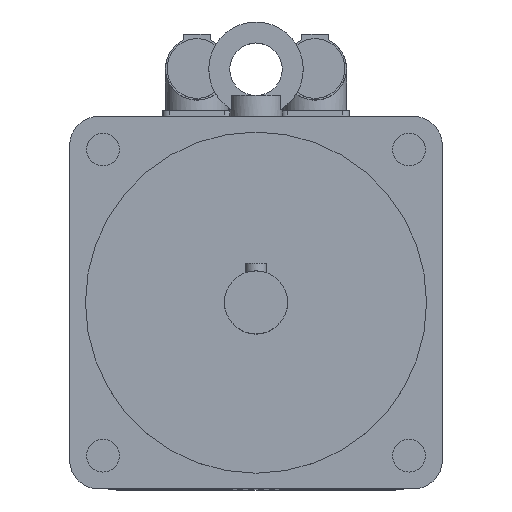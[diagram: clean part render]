
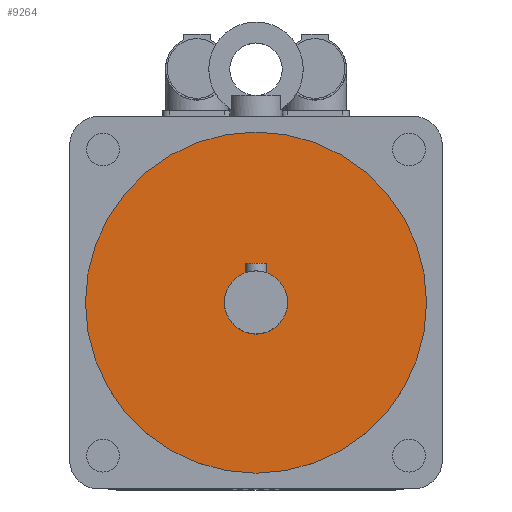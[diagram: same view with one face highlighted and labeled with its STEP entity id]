
A CAD part, top view. The second image highlights one B-rep face of the part: STEP entity #9264.
In plain terms, the highlighted planar face has unit normal (0, 0, 1).
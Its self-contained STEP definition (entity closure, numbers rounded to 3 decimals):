
#107=FACE_BOUND('',#909,.T.);
#283=FACE_OUTER_BOUND('',#908,.T.);
#908=EDGE_LOOP('',(#6623));
#909=EDGE_LOOP('',(#6624));
#1470=CIRCLE('',#9861,12.);
#1471=CIRCLE('',#9863,65.);
#4215=VERTEX_POINT('',#14403);
#4216=VERTEX_POINT('',#14406);
#5156=EDGE_CURVE('',#4215,#4215,#1470,.T.);
#5157=EDGE_CURVE('',#4216,#4216,#1471,.T.);
#6623=ORIENTED_EDGE('',*,*,#5157,.F.);
#6624=ORIENTED_EDGE('',*,*,#5156,.T.);
#8816=PLANE('',#9862);
#9264=ADVANCED_FACE('',(#283,#107),#8816,.T.);
#9861=AXIS2_PLACEMENT_3D('',#14404,#11242,#11243);
#9862=AXIS2_PLACEMENT_3D('',#14405,#11244,#11245);
#9863=AXIS2_PLACEMENT_3D('',#14407,#11246,#11247);
#11242=DIRECTION('center_axis',(0.,0.,-1.));
#11243=DIRECTION('ref_axis',(1.,0.,0.));
#11244=DIRECTION('center_axis',(0.,0.,1.));
#11245=DIRECTION('ref_axis',(1.,0.,0.));
#11246=DIRECTION('center_axis',(0.,0.,-1.));
#11247=DIRECTION('ref_axis',(1.,0.,0.));
#14403=CARTESIAN_POINT('',(0.,12.,192.));
#14404=CARTESIAN_POINT('Origin',(0.,0.,192.));
#14405=CARTESIAN_POINT('Origin',(0.,65.,192.));
#14406=CARTESIAN_POINT('',(0.,65.,192.));
#14407=CARTESIAN_POINT('Origin',(0.,0.,192.));
